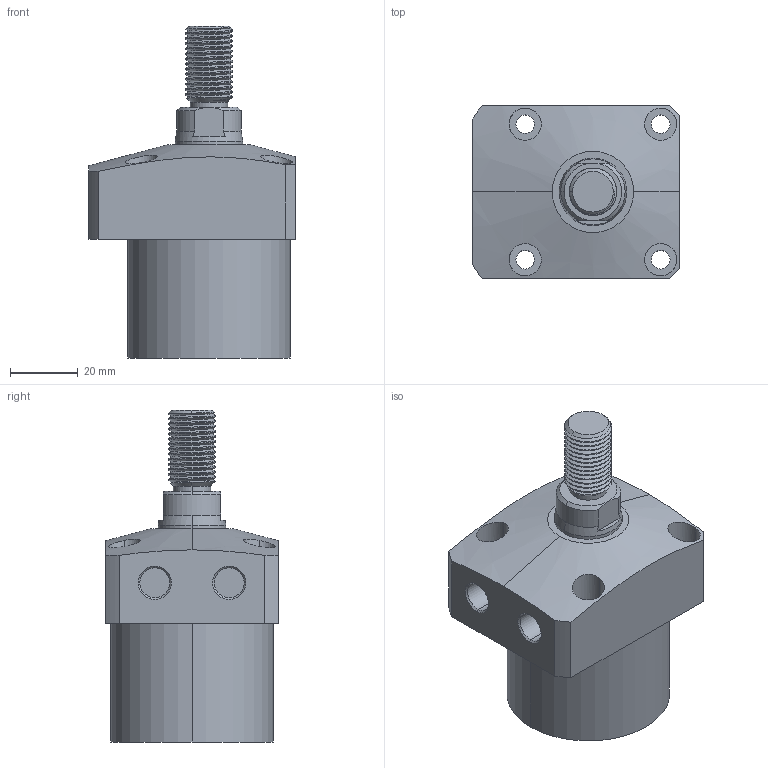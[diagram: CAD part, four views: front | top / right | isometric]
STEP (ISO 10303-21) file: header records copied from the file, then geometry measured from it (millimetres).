
FILE_DESCRIPTION (( 'STEP AP203' ), '1' );
FILE_NAME ('CLL-048CT-025.STEP', '2020-01-10T01:09:44', ( '' ), ( '' ), 'SwSTEP 2.0', 'SolidWorks 2015', '' );
FILE_SCHEMA (( 'CONFIG_CONTROL_DESIGN' ));
Length unit declared in the file: millimetre
Products named in the file (1): CLL-048CT-025
Bounding box: 61 x 51 x 98 mm (x, y, z)
Volume: 142345.6 mm3; surface area: 21263.2 mm2
Topology: 1 solids, 1 shells, 105 faces, 262 edges, 170 vertices
Faces by surface type: cylinder 63, plane 24, cone 16, bspline 2
Entity records: 5142 total; most frequent: CARTESIAN_POINT 2698, ORIENTED_EDGE 524, DIRECTION 464, EDGE_CURVE 262, AXIS2_PLACEMENT_3D 184, VERTEX_POINT 170, EDGE_LOOP 124, ADVANCED_FACE 105
